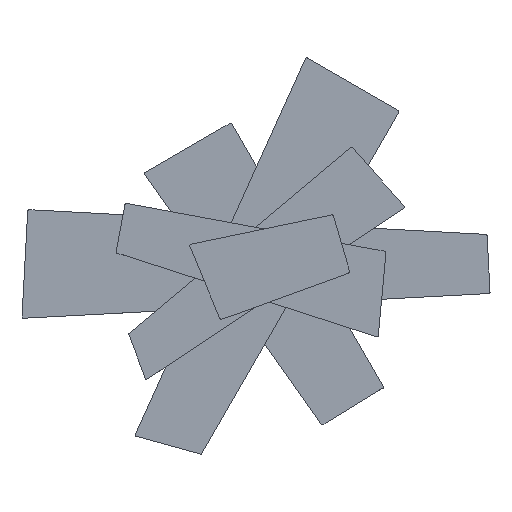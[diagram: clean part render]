
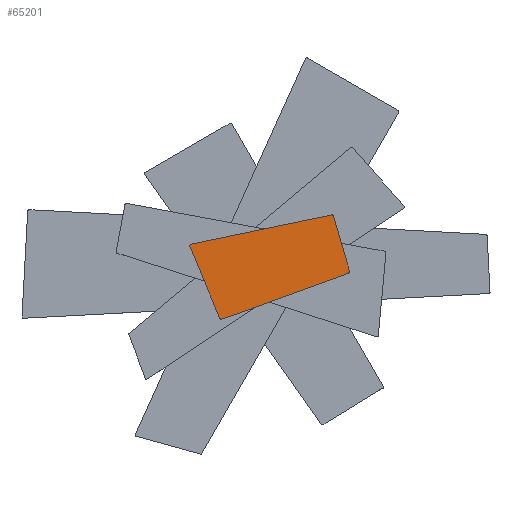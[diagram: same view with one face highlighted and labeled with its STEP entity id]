
A CAD part, top view. The second image highlights one B-rep face of the part: STEP entity #65201.
In plain terms, the highlighted planar face has unit normal (0, 0, 1).
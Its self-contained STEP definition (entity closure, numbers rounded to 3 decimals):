
#723 = VERTEX_POINT ( 'NONE', #85950 ) ;
#755 = VERTEX_POINT ( 'NONE', #30256 ) ;
#2231 = CARTESIAN_POINT ( 'NONE',  ( -283.074, 34.269, -45.317 ) ) ;
#2682 = CARTESIAN_POINT ( 'NONE',  ( -44.486, 84.064, -45.317 ) ) ;
#4030 = CARTESIAN_POINT ( 'NONE',  ( -285.845, 33.12, -45.317 ) ) ;
#4646 = DIRECTION ( 'NONE',  ( -0.28, 0.96, 0. ) ) ;
#4926 = VERTEX_POINT ( 'NONE', #104216 ) ;
#5756 = DIRECTION ( 'NONE',  ( 0., 1., 0. ) ) ;
#10000 = DIRECTION ( 'NONE',  ( 0., 0., 1. ) ) ;
#11205 = FACE_OUTER_BOUND ( 'NONE', #117420, .T. ) ;
#12595 = VERTEX_POINT ( 'NONE', #2682 ) ;
#13612 = CIRCLE ( 'NONE', #17475, 3. ) ;
#16206 = LINE ( 'NONE', #24039, #56131 ) ;
#17286 = AXIS2_PLACEMENT_3D ( 'NONE', #118880, #35933, #83773 ) ;
#17475 = AXIS2_PLACEMENT_3D ( 'NONE', #55249, #74006, #64317 ) ;
#23443 = DIRECTION ( 'NONE',  ( 0.94, 0.342, 0. ) ) ;
#24039 = CARTESIAN_POINT ( 'NONE',  ( -19.472, -11.838, -45.317 ) ) ;
#27051 = CARTESIAN_POINT ( 'NONE',  ( -235.876, -87.434, -45.317 ) ) ;
#27819 = ORIENTED_EDGE ( 'NONE', *, *, #53064, .T. ) ;
#30256 = CARTESIAN_POINT ( 'NONE',  ( -17.617, -8.18, -45.317 ) ) ;
#31048 = EDGE_CURVE ( 'NONE', #45053, #83853, #16206, .T. ) ;
#32170 = CARTESIAN_POINT ( 'NONE',  ( -19.472, -11.838, -45.317 ) ) ;
#35933 = DIRECTION ( 'NONE',  ( 0., 0., 1. ) ) ;
#36490 = EDGE_CURVE ( 'NONE', #12595, #4926, #67758, .T. ) ;
#36861 = VERTEX_POINT ( 'NONE', #66364 ) ;
#43367 = ORIENTED_EDGE ( 'NONE', *, *, #48113, .T. ) ;
#44032 = VERTEX_POINT ( 'NONE', #27051 ) ;
#45053 = VERTEX_POINT ( 'NONE', #100643 ) ;
#46473 = AXIS2_PLACEMENT_3D ( 'NONE', #70649, #107539, #61583 ) ;
#48113 = EDGE_CURVE ( 'NONE', #755, #12595, #68801, .T. ) ;
#50480 = ORIENTED_EDGE ( 'NONE', *, *, #98356, .T. ) ;
#53064 = EDGE_CURVE ( 'NONE', #44032, #45053, #13612, .T. ) ;
#55249 = CARTESIAN_POINT ( 'NONE',  ( -233.105, -86.286, -45.317 ) ) ;
#56131 = VECTOR ( 'NONE', #23443, 1000. ) ;
#59029 = ORIENTED_EDGE ( 'NONE', *, *, #31048, .T. ) ;
#59723 = CARTESIAN_POINT ( 'NONE',  ( -17.617, -8.18, -45.317 ) ) ;
#60125 = CARTESIAN_POINT ( 'NONE',  ( -285.845, 33.12, -45.317 ) ) ;
#61545 = EDGE_CURVE ( 'NONE', #36861, #64849, #101567, .T. ) ;
#61583 = DIRECTION ( 'NONE',  ( 0., -1., 0. ) ) ;
#61905 = DIRECTION ( 'NONE',  ( 0.383, -0.924, 0. ) ) ;
#64317 = DIRECTION ( 'NONE',  ( 0., -1., 0. ) ) ;
#64849 = VERTEX_POINT ( 'NONE', #4030 ) ;
#65201 = ADVANCED_FACE ( 'NONE', ( #11205 ), #119538, .T. ) ;
#66068 = VECTOR ( 'NONE', #110621, 1000. ) ;
#66364 = CARTESIAN_POINT ( 'NONE',  ( -283.684, 37.206, -45.317 ) ) ;
#67758 = CIRCLE ( 'NONE', #46473, 3. ) ;
#68801 = LINE ( 'NONE', #59723, #118089 ) ;
#69454 = CIRCLE ( 'NONE', #17286, 3. ) ;
#70649 = CARTESIAN_POINT ( 'NONE',  ( -47.366, 83.225, -45.317 ) ) ;
#73747 = CARTESIAN_POINT ( 'NONE',  ( -283.684, 37.206, -45.317 ) ) ;
#74006 = DIRECTION ( 'NONE',  ( 0., 0., 1. ) ) ;
#77483 = VECTOR ( 'NONE', #61905, 1000. ) ;
#78709 = EDGE_CURVE ( 'NONE', #4926, #723, #69454, .T. ) ;
#80136 = EDGE_CURVE ( 'NONE', #64849, #44032, #108465, .T. ) ;
#82374 = ORIENTED_EDGE ( 'NONE', *, *, #80136, .T. ) ;
#83504 = EDGE_CURVE ( 'NONE', #723, #36861, #119726, .T. ) ;
#83773 = DIRECTION ( 'NONE',  ( 0., -1., 0. ) ) ;
#83853 = VERTEX_POINT ( 'NONE', #32170 ) ;
#84141 = AXIS2_PLACEMENT_3D ( 'NONE', #2231, #100884, #106223 ) ;
#85691 = ORIENTED_EDGE ( 'NONE', *, *, #83504, .T. ) ;
#85950 = CARTESIAN_POINT ( 'NONE',  ( -47.976, 86.162, -45.317 ) ) ;
#86128 = CIRCLE ( 'NONE', #91878, 3. ) ;
#91346 = ORIENTED_EDGE ( 'NONE', *, *, #36490, .T. ) ;
#91878 = AXIS2_PLACEMENT_3D ( 'NONE', #98266, #108580, #5756 ) ;
#94036 = CARTESIAN_POINT ( 'NONE',  ( -233.105, -86.286, -45.317 ) ) ;
#96327 = AXIS2_PLACEMENT_3D ( 'NONE', #94036, #10000, #111614 ) ;
#98266 = CARTESIAN_POINT ( 'NONE',  ( -20.497, -9.019, -45.317 ) ) ;
#98356 = EDGE_CURVE ( 'NONE', #83853, #755, #86128, .T. ) ;
#100643 = CARTESIAN_POINT ( 'NONE',  ( -232.08, -89.105, -45.317 ) ) ;
#100884 = DIRECTION ( 'NONE',  ( 0., 0., 1. ) ) ;
#101567 = CIRCLE ( 'NONE', #84141, 3. ) ;
#104216 = CARTESIAN_POINT ( 'NONE',  ( -47.366, 86.225, -45.317 ) ) ;
#106223 = DIRECTION ( 'NONE',  ( 0., 1., 0. ) ) ;
#107539 = DIRECTION ( 'NONE',  ( 0., 0., 1. ) ) ;
#108465 = LINE ( 'NONE', #60125, #77483 ) ;
#108580 = DIRECTION ( 'NONE',  ( 0., 0., 1. ) ) ;
#110621 = DIRECTION ( 'NONE',  ( -0.979, -0.203, 0. ) ) ;
#111614 = DIRECTION ( 'NONE',  ( 0., -1., 0. ) ) ;
#113618 = ORIENTED_EDGE ( 'NONE', *, *, #61545, .T. ) ;
#117420 = EDGE_LOOP ( 'NONE', ( #27819, #59029, #50480, #43367, #91346, #119140, #85691, #113618, #82374 ) ) ;
#118089 = VECTOR ( 'NONE', #4646, 1000. ) ;
#118880 = CARTESIAN_POINT ( 'NONE',  ( -47.366, 83.225, -45.317 ) ) ;
#119140 = ORIENTED_EDGE ( 'NONE', *, *, #78709, .T. ) ;
#119538 = PLANE ( 'NONE',  #96327 ) ;
#119726 = LINE ( 'NONE', #73747, #66068 ) ;
